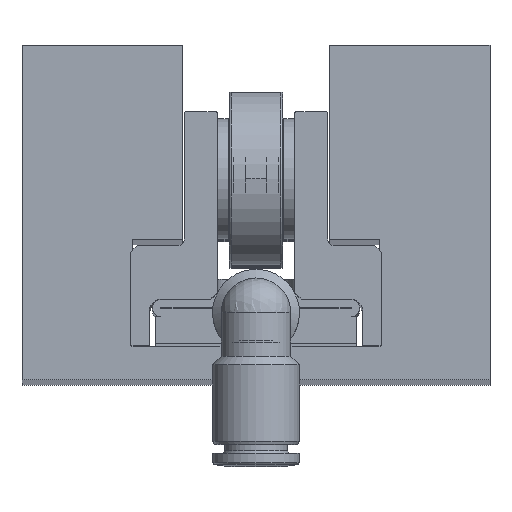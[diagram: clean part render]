
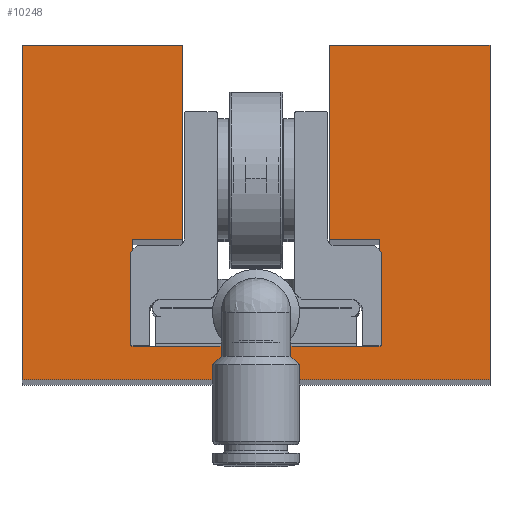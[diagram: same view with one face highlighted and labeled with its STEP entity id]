
A CAD part, top view. The second image highlights one B-rep face of the part: STEP entity #10248.
In plain terms, the highlighted planar face has unit normal (0, 0, 1).
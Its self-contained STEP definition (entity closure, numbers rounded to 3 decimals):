
#125=LINE('',#19565,#425);
#129=LINE('',#19572,#429);
#132=LINE('',#19580,#432);
#135=LINE('',#19584,#435);
#137=LINE('',#19589,#437);
#146=LINE('',#19607,#446);
#149=LINE('',#19612,#449);
#151=LINE('',#19616,#451);
#153=LINE('',#19621,#453);
#157=LINE('',#19630,#457);
#163=LINE('',#19641,#463);
#170=LINE('',#19714,#470);
#174=LINE('',#19721,#474);
#187=LINE('',#19769,#487);
#199=LINE('',#19801,#499);
#218=LINE('',#19851,#518);
#221=LINE('',#19857,#521);
#240=LINE('',#20031,#540);
#242=LINE('',#20037,#542);
#425=VECTOR('',#13572,50.);
#429=VECTOR('',#13578,24.);
#432=VECTOR('',#13583,50.);
#435=VECTOR('',#13588,70.);
#437=VECTOR('',#13592,24.);
#446=VECTOR('',#13605,29.);
#449=VECTOR('',#13610,29.);
#451=VECTOR('',#13614,7.5);
#453=VECTOR('',#13618,1.75);
#457=VECTOR('',#13624,12.017);
#463=VECTOR('',#13630,12.017);
#470=VECTOR('',#13639,7.5);
#474=VECTOR('',#13645,1.75);
#487=VECTOR('',#13686,2.35);
#499=VECTOR('',#13718,2.35);
#518=VECTOR('',#13771,0.354);
#521=VECTOR('',#13776,13.8);
#540=VECTOR('',#13927,0.354);
#542=VECTOR('',#13935,13.8);
#2331=FACE_OUTER_BOUND('',#3491,.T.);
#3491=EDGE_LOOP('',(#8140,#8141,#8142,#8143,#8144,#8145,#8146,#8147,#8148,
#8149,#8150,#8151,#8152,#8153,#8154,#8155,#8156,#8157,#8158,#8159,#8160,
#8161));
#4181=CIRCLE('',#11309,0.2);
#4224=CIRCLE('',#11402,0.2);
#4251=CIRCLE('',#11477,6.5);
#4931=VERTEX_POINT('',#19562);
#4932=VERTEX_POINT('',#19564);
#4933=VERTEX_POINT('',#19568);
#4937=VERTEX_POINT('',#19577);
#4938=VERTEX_POINT('',#19579);
#4940=VERTEX_POINT('',#19587);
#4947=VERTEX_POINT('',#19606);
#4948=VERTEX_POINT('',#19610);
#4949=VERTEX_POINT('',#19614);
#4951=VERTEX_POINT('',#19619);
#4954=VERTEX_POINT('',#19627);
#4955=VERTEX_POINT('',#19629);
#4959=VERTEX_POINT('',#19638);
#4960=VERTEX_POINT('',#19640);
#4972=VERTEX_POINT('',#19713);
#4973=VERTEX_POINT('',#19717);
#4995=VERTEX_POINT('',#19768);
#5000=VERTEX_POINT('',#19782);
#5005=VERTEX_POINT('',#19800);
#5019=VERTEX_POINT('',#19850);
#5021=VERTEX_POINT('',#19856);
#5067=VERTEX_POINT('',#20033);
#5890=EDGE_CURVE('',#4932,#4931,#125,.T.);
#5894=EDGE_CURVE('',#4933,#4932,#129,.T.);
#5897=EDGE_CURVE('',#4938,#4937,#132,.T.);
#5900=EDGE_CURVE('',#4931,#4938,#135,.T.);
#5902=EDGE_CURVE('',#4937,#4940,#137,.T.);
#5911=EDGE_CURVE('',#4947,#4933,#146,.T.);
#5914=EDGE_CURVE('',#4940,#4948,#149,.T.);
#5916=EDGE_CURVE('',#4948,#4949,#151,.T.);
#5918=EDGE_CURVE('',#4949,#4951,#153,.T.);
#5922=EDGE_CURVE('',#4955,#4954,#157,.T.);
#5928=EDGE_CURVE('',#4960,#4959,#163,.T.);
#5941=EDGE_CURVE('',#4972,#4947,#170,.T.);
#5945=EDGE_CURVE('',#4973,#4972,#174,.T.);
#5970=EDGE_CURVE('',#4995,#4955,#187,.T.);
#5977=EDGE_CURVE('',#5000,#4995,#4181,.T.);
#5986=EDGE_CURVE('',#4959,#5005,#199,.T.);
#6011=EDGE_CURVE('',#5019,#4973,#218,.T.);
#6014=EDGE_CURVE('',#5021,#5000,#221,.T.);
#6074=EDGE_CURVE('',#4951,#5021,#240,.T.);
#6075=EDGE_CURVE('',#5005,#5067,#4224,.T.);
#6077=EDGE_CURVE('',#5067,#5019,#242,.T.);
#6143=EDGE_CURVE('',#4954,#4960,#4251,.T.);
#8140=ORIENTED_EDGE('',*,*,#6143,.T.);
#8141=ORIENTED_EDGE('',*,*,#5928,.T.);
#8142=ORIENTED_EDGE('',*,*,#5986,.T.);
#8143=ORIENTED_EDGE('',*,*,#6075,.T.);
#8144=ORIENTED_EDGE('',*,*,#6077,.T.);
#8145=ORIENTED_EDGE('',*,*,#6011,.T.);
#8146=ORIENTED_EDGE('',*,*,#5945,.T.);
#8147=ORIENTED_EDGE('',*,*,#5941,.T.);
#8148=ORIENTED_EDGE('',*,*,#5911,.T.);
#8149=ORIENTED_EDGE('',*,*,#5894,.T.);
#8150=ORIENTED_EDGE('',*,*,#5890,.T.);
#8151=ORIENTED_EDGE('',*,*,#5900,.T.);
#8152=ORIENTED_EDGE('',*,*,#5897,.T.);
#8153=ORIENTED_EDGE('',*,*,#5902,.T.);
#8154=ORIENTED_EDGE('',*,*,#5914,.T.);
#8155=ORIENTED_EDGE('',*,*,#5916,.T.);
#8156=ORIENTED_EDGE('',*,*,#5918,.T.);
#8157=ORIENTED_EDGE('',*,*,#6074,.T.);
#8158=ORIENTED_EDGE('',*,*,#6014,.T.);
#8159=ORIENTED_EDGE('',*,*,#5977,.T.);
#8160=ORIENTED_EDGE('',*,*,#5970,.T.);
#8161=ORIENTED_EDGE('',*,*,#5922,.T.);
#8978=PLANE('',#11476);
#10248=ADVANCED_FACE('',(#2331),#8978,.T.);
#11309=AXIS2_PLACEMENT_3D('',#19783,#13697,#13698);
#11402=AXIS2_PLACEMENT_3D('',#20034,#13930,#13931);
#11476=AXIS2_PLACEMENT_3D('',#20225,#14110,#14111);
#11477=AXIS2_PLACEMENT_3D('',#20226,#14112,#14113);
#13572=DIRECTION('',(0.,-1.,0.));
#13578=DIRECTION('',(-1.,0.,0.));
#13583=DIRECTION('',(0.,1.,0.));
#13588=DIRECTION('',(1.,0.,0.));
#13592=DIRECTION('',(-1.,0.,0.));
#13605=DIRECTION('',(0.,1.,0.));
#13610=DIRECTION('',(0.,-1.,0.));
#13614=DIRECTION('',(1.,0.,0.));
#13618=DIRECTION('',(0.,-1.,0.));
#13624=DIRECTION('',(-1.,0.,0.));
#13630=DIRECTION('',(-1.,0.,0.));
#13639=DIRECTION('',(1.,0.,0.));
#13645=DIRECTION('',(0.,1.,0.));
#13686=DIRECTION('',(-1.,0.,0.));
#13697=DIRECTION('center_axis',(0.,0.,-1.));
#13698=DIRECTION('ref_axis',(0.707,-0.707,0.));
#13718=DIRECTION('',(-1.,0.,0.));
#13771=DIRECTION('',(0.707,0.707,0.));
#13776=DIRECTION('',(0.,-1.,0.));
#13927=DIRECTION('',(0.707,-0.707,0.));
#13930=DIRECTION('center_axis',(0.,0.,-1.));
#13931=DIRECTION('ref_axis',(-0.707,-0.707,0.));
#13935=DIRECTION('',(0.,1.,0.));
#14110=DIRECTION('center_axis',(0.,0.,1.));
#14111=DIRECTION('ref_axis',(1.,0.,0.));
#14112=DIRECTION('center_axis',(0.,0.,-1.));
#14113=DIRECTION('ref_axis',(0.,1.,0.));
#19562=CARTESIAN_POINT('',(-35.,-21.,0.));
#19564=CARTESIAN_POINT('',(-35.,29.,0.));
#19565=CARTESIAN_POINT('',(-35.,29.,0.));
#19568=CARTESIAN_POINT('',(-11.,29.,0.));
#19572=CARTESIAN_POINT('',(35.,29.,0.));
#19577=CARTESIAN_POINT('',(35.,29.,0.));
#19579=CARTESIAN_POINT('',(35.,-21.,0.));
#19580=CARTESIAN_POINT('',(35.,-21.,0.));
#19584=CARTESIAN_POINT('',(-35.,-21.,0.));
#19587=CARTESIAN_POINT('',(11.,29.,0.));
#19589=CARTESIAN_POINT('',(35.,29.,0.));
#19606=CARTESIAN_POINT('',(-11.,0.,0.));
#19607=CARTESIAN_POINT('',(-11.,16.5,0.));
#19610=CARTESIAN_POINT('',(11.,0.,0.));
#19612=CARTESIAN_POINT('',(11.,2.,0.));
#19614=CARTESIAN_POINT('',(18.5,0.,0.));
#19616=CARTESIAN_POINT('',(0.,0.,0.));
#19619=CARTESIAN_POINT('',(18.5,-1.75,0.));
#19621=CARTESIAN_POINT('',(18.5,-6.,0.));
#19627=CARTESIAN_POINT('',(4.183,-16.,0.));
#19629=CARTESIAN_POINT('',(16.2,-16.,0.));
#19630=CARTESIAN_POINT('',(-9.25,-16.,0.));
#19638=CARTESIAN_POINT('',(-16.2,-16.,0.));
#19640=CARTESIAN_POINT('',(-4.183,-16.,0.));
#19641=CARTESIAN_POINT('',(-9.25,-16.,0.));
#19713=CARTESIAN_POINT('',(-18.5,0.,0.));
#19714=CARTESIAN_POINT('',(0.,0.,0.));
#19717=CARTESIAN_POINT('',(-18.5,-1.75,0.));
#19721=CARTESIAN_POINT('',(-18.5,2.,0.));
#19768=CARTESIAN_POINT('',(18.55,-16.,0.));
#19769=CARTESIAN_POINT('',(-9.25,-16.,0.));
#19782=CARTESIAN_POINT('',(18.75,-15.8,0.));
#19783=CARTESIAN_POINT('Origin',(18.55,-15.8,0.));
#19800=CARTESIAN_POINT('',(-18.55,-16.,0.));
#19801=CARTESIAN_POINT('',(-9.25,-16.,0.));
#19850=CARTESIAN_POINT('',(-18.75,-2.,0.));
#19851=CARTESIAN_POINT('',(-12.313,4.438,0.));
#19856=CARTESIAN_POINT('',(18.75,-2.,0.));
#19857=CARTESIAN_POINT('',(18.75,-6.,0.));
#20031=CARTESIAN_POINT('',(12.313,4.438,0.));
#20033=CARTESIAN_POINT('',(-18.75,-15.8,0.));
#20034=CARTESIAN_POINT('Origin',(-18.55,-15.8,0.));
#20037=CARTESIAN_POINT('',(-18.75,1.5,0.));
#20225=CARTESIAN_POINT('Origin',(0.,4.,0.));
#20226=CARTESIAN_POINT('Origin',(0.,-11.025,0.));
